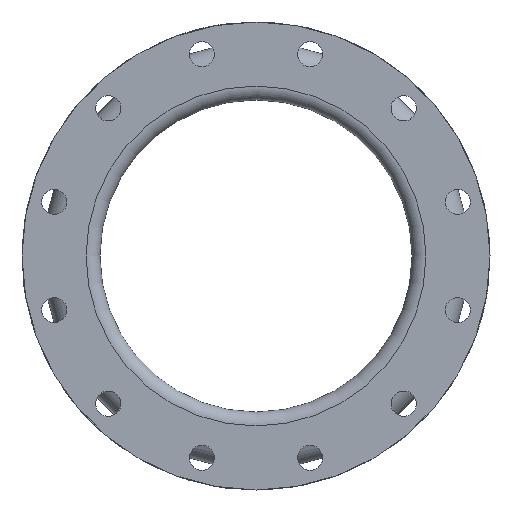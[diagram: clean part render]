
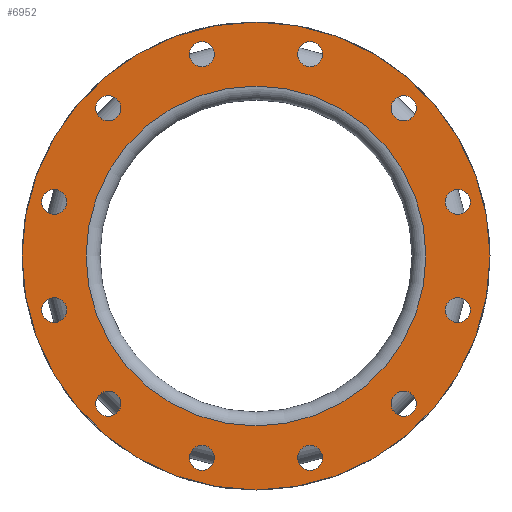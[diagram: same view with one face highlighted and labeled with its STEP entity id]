
A CAD part, left-side view. The second image highlights one B-rep face of the part: STEP entity #6952.
In plain terms, the highlighted planar face has unit normal (-1, 0, 0).
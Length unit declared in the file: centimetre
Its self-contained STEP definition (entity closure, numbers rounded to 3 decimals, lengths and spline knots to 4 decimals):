
#119=FACE_BOUND('',#1189,.T.);
#120=FACE_BOUND('',#1190,.T.);
#121=FACE_BOUND('',#1191,.T.);
#122=FACE_BOUND('',#1192,.T.);
#123=FACE_BOUND('',#1193,.T.);
#124=FACE_BOUND('',#1194,.T.);
#125=FACE_BOUND('',#1195,.T.);
#126=FACE_BOUND('',#1196,.T.);
#127=FACE_BOUND('',#1197,.T.);
#128=FACE_BOUND('',#1198,.T.);
#129=FACE_BOUND('',#1199,.T.);
#130=FACE_BOUND('',#1200,.T.);
#131=FACE_BOUND('',#1201,.T.);
#132=FACE_BOUND('',#1202,.T.);
#1189=EDGE_LOOP('',(#5321));
#1190=EDGE_LOOP('',(#5322));
#1191=EDGE_LOOP('',(#5323));
#1192=EDGE_LOOP('',(#5324));
#1193=EDGE_LOOP('',(#5325));
#1194=EDGE_LOOP('',(#5326));
#1195=EDGE_LOOP('',(#5327));
#1196=EDGE_LOOP('',(#5328));
#1197=EDGE_LOOP('',(#5329));
#1198=EDGE_LOOP('',(#5330));
#1199=EDGE_LOOP('',(#5331));
#1200=EDGE_LOOP('',(#5332));
#1201=EDGE_LOOP('',(#5333));
#1202=EDGE_LOOP('',(#5334));
#2432=CIRCLE('',#7576,1.4288);
#2434=CIRCLE('',#7579,1.4288);
#2436=CIRCLE('',#7582,1.4288);
#2438=CIRCLE('',#7585,1.4288);
#2440=CIRCLE('',#7588,1.4288);
#2442=CIRCLE('',#7591,1.4288);
#2444=CIRCLE('',#7594,1.4288);
#2446=CIRCLE('',#7597,1.4288);
#2448=CIRCLE('',#7600,1.4288);
#2450=CIRCLE('',#7603,1.4288);
#2452=CIRCLE('',#7606,1.4288);
#2454=CIRCLE('',#7609,1.4288);
#2490=CIRCLE('',#7668,19.3675);
#2491=CIRCLE('',#7670,26.67);
#3070=VERTEX_POINT('',#11360);
#3072=VERTEX_POINT('',#11365);
#3074=VERTEX_POINT('',#11370);
#3076=VERTEX_POINT('',#11375);
#3078=VERTEX_POINT('',#11380);
#3080=VERTEX_POINT('',#11385);
#3082=VERTEX_POINT('',#11390);
#3084=VERTEX_POINT('',#11395);
#3086=VERTEX_POINT('',#11400);
#3088=VERTEX_POINT('',#11405);
#3090=VERTEX_POINT('',#11410);
#3092=VERTEX_POINT('',#11415);
#3128=VERTEX_POINT('',#11510);
#3129=VERTEX_POINT('',#11513);
#3876=EDGE_CURVE('',#3070,#3070,#2432,.T.);
#3878=EDGE_CURVE('',#3072,#3072,#2434,.T.);
#3880=EDGE_CURVE('',#3074,#3074,#2436,.T.);
#3882=EDGE_CURVE('',#3076,#3076,#2438,.T.);
#3884=EDGE_CURVE('',#3078,#3078,#2440,.T.);
#3886=EDGE_CURVE('',#3080,#3080,#2442,.T.);
#3888=EDGE_CURVE('',#3082,#3082,#2444,.T.);
#3890=EDGE_CURVE('',#3084,#3084,#2446,.T.);
#3892=EDGE_CURVE('',#3086,#3086,#2448,.T.);
#3894=EDGE_CURVE('',#3088,#3088,#2450,.T.);
#3896=EDGE_CURVE('',#3090,#3090,#2452,.T.);
#3898=EDGE_CURVE('',#3092,#3092,#2454,.T.);
#3934=EDGE_CURVE('',#3128,#3128,#2490,.T.);
#3935=EDGE_CURVE('',#3129,#3129,#2491,.T.);
#5321=ORIENTED_EDGE('',*,*,#3876,.T.);
#5322=ORIENTED_EDGE('',*,*,#3878,.T.);
#5323=ORIENTED_EDGE('',*,*,#3880,.T.);
#5324=ORIENTED_EDGE('',*,*,#3882,.T.);
#5325=ORIENTED_EDGE('',*,*,#3884,.T.);
#5326=ORIENTED_EDGE('',*,*,#3886,.T.);
#5327=ORIENTED_EDGE('',*,*,#3888,.T.);
#5328=ORIENTED_EDGE('',*,*,#3890,.T.);
#5329=ORIENTED_EDGE('',*,*,#3892,.T.);
#5330=ORIENTED_EDGE('',*,*,#3894,.T.);
#5331=ORIENTED_EDGE('',*,*,#3896,.T.);
#5332=ORIENTED_EDGE('',*,*,#3898,.T.);
#5333=ORIENTED_EDGE('',*,*,#3935,.F.);
#5334=ORIENTED_EDGE('',*,*,#3934,.T.);
#6317=PLANE('',#7669);
#6952=ADVANCED_FACE('',(#119,#120,#121,#122,#123,#124,#125,#126,#127,#128,
#129,#130,#131,#132),#6317,.T.);
#7576=AXIS2_PLACEMENT_3D('',#11361,#9171,#9172);
#7579=AXIS2_PLACEMENT_3D('',#11366,#9177,#9178);
#7582=AXIS2_PLACEMENT_3D('',#11371,#9183,#9184);
#7585=AXIS2_PLACEMENT_3D('',#11376,#9189,#9190);
#7588=AXIS2_PLACEMENT_3D('',#11381,#9195,#9196);
#7591=AXIS2_PLACEMENT_3D('',#11386,#9201,#9202);
#7594=AXIS2_PLACEMENT_3D('',#11391,#9207,#9208);
#7597=AXIS2_PLACEMENT_3D('',#11396,#9213,#9214);
#7600=AXIS2_PLACEMENT_3D('',#11401,#9219,#9220);
#7603=AXIS2_PLACEMENT_3D('',#11406,#9225,#9226);
#7606=AXIS2_PLACEMENT_3D('',#11411,#9231,#9232);
#7609=AXIS2_PLACEMENT_3D('',#11416,#9237,#9238);
#7668=AXIS2_PLACEMENT_3D('',#11511,#9355,#9356);
#7669=AXIS2_PLACEMENT_3D('',#11512,#9357,#9358);
#7670=AXIS2_PLACEMENT_3D('',#11514,#9359,#9360);
#9171=DIRECTION('center_axis',(1.,0.,0.));
#9172=DIRECTION('ref_axis',(0.,-0.866,0.5));
#9177=DIRECTION('center_axis',(1.,0.,0.));
#9178=DIRECTION('ref_axis',(0.,-0.5,0.866));
#9183=DIRECTION('center_axis',(1.,0.,0.));
#9184=DIRECTION('ref_axis',(0.,0.,
1.));
#9189=DIRECTION('center_axis',(1.,0.,0.));
#9190=DIRECTION('ref_axis',(0.,0.5,0.866));
#9195=DIRECTION('center_axis',(1.,0.,0.));
#9196=DIRECTION('ref_axis',(0.,0.866,0.5));
#9201=DIRECTION('center_axis',(1.,0.,0.));
#9202=DIRECTION('ref_axis',(0.,1.,0.));
#9207=DIRECTION('center_axis',(1.,0.,0.));
#9208=DIRECTION('ref_axis',(0.,0.866,-0.5));
#9213=DIRECTION('center_axis',(1.,0.,0.));
#9214=DIRECTION('ref_axis',(0.,0.5,-0.866));
#9219=DIRECTION('center_axis',(1.,0.,0.));
#9220=DIRECTION('ref_axis',(0.,0.,
-1.));
#9225=DIRECTION('center_axis',(1.,0.,0.));
#9226=DIRECTION('ref_axis',(0.,-0.5,-0.866));
#9231=DIRECTION('center_axis',(1.,0.,0.));
#9232=DIRECTION('ref_axis',(0.,-0.866,-0.5));
#9237=DIRECTION('center_axis',(1.,0.,0.));
#9238=DIRECTION('ref_axis',(0.,-1.,0.));
#9355=DIRECTION('center_axis',(1.,0.,0.));
#9356=DIRECTION('ref_axis',(0.,0.,-1.));
#9357=DIRECTION('center_axis',(-1.,0.,0.));
#9358=DIRECTION('ref_axis',(0.,0.,1.));
#9359=DIRECTION('center_axis',(1.,0.,0.));
#9360=DIRECTION('ref_axis',(0.,0.,-1.));
#11360=CARTESIAN_POINT('',(-15.24,18.0753,-17.5524));
#11361=CARTESIAN_POINT('Origin',(-15.24,16.838,-16.838));
#11365=CARTESIAN_POINT('',(-15.24,6.8775,-24.2384));
#11366=CARTESIAN_POINT('Origin',(-15.24,6.1631,-23.0011));
#11370=CARTESIAN_POINT('',(-15.24,-6.1631,-24.4299));
#11371=CARTESIAN_POINT('Origin',(-15.24,-6.1631,-23.0011));
#11375=CARTESIAN_POINT('',(-15.24,-17.5524,-18.0753));
#11376=CARTESIAN_POINT('Origin',(-15.24,-16.838,-16.838));
#11380=CARTESIAN_POINT('',(-15.24,-24.2384,-6.8775));
#11381=CARTESIAN_POINT('Origin',(-15.24,-23.0011,-6.1631));
#11385=CARTESIAN_POINT('',(-15.24,-24.4299,6.1631));
#11386=CARTESIAN_POINT('Origin',(-15.24,-23.0011,6.1631));
#11390=CARTESIAN_POINT('',(-15.24,-18.0753,17.5524));
#11391=CARTESIAN_POINT('Origin',(-15.24,-16.838,16.838));
#11395=CARTESIAN_POINT('',(-15.24,-6.8775,24.2384));
#11396=CARTESIAN_POINT('Origin',(-15.24,-6.1631,23.0011));
#11400=CARTESIAN_POINT('',(-15.24,6.1631,24.4299));
#11401=CARTESIAN_POINT('Origin',(-15.24,6.1631,23.0011));
#11405=CARTESIAN_POINT('',(-15.24,17.5524,18.0753));
#11406=CARTESIAN_POINT('Origin',(-15.24,16.838,16.838));
#11410=CARTESIAN_POINT('',(-15.24,24.2384,6.8775));
#11411=CARTESIAN_POINT('Origin',(-15.24,23.0011,6.1631));
#11415=CARTESIAN_POINT('',(-15.24,24.4299,-6.1631));
#11416=CARTESIAN_POINT('Origin',(-15.24,23.0011,-6.1631));
#11510=CARTESIAN_POINT('',(-15.24,19.3675,0.));
#11511=CARTESIAN_POINT('Origin',(-15.24,0.,0.));
#11512=CARTESIAN_POINT('Origin',(-15.24,26.67,0.));
#11513=CARTESIAN_POINT('',(-15.24,26.67,0.));
#11514=CARTESIAN_POINT('Origin',(-15.24,0.,0.));
